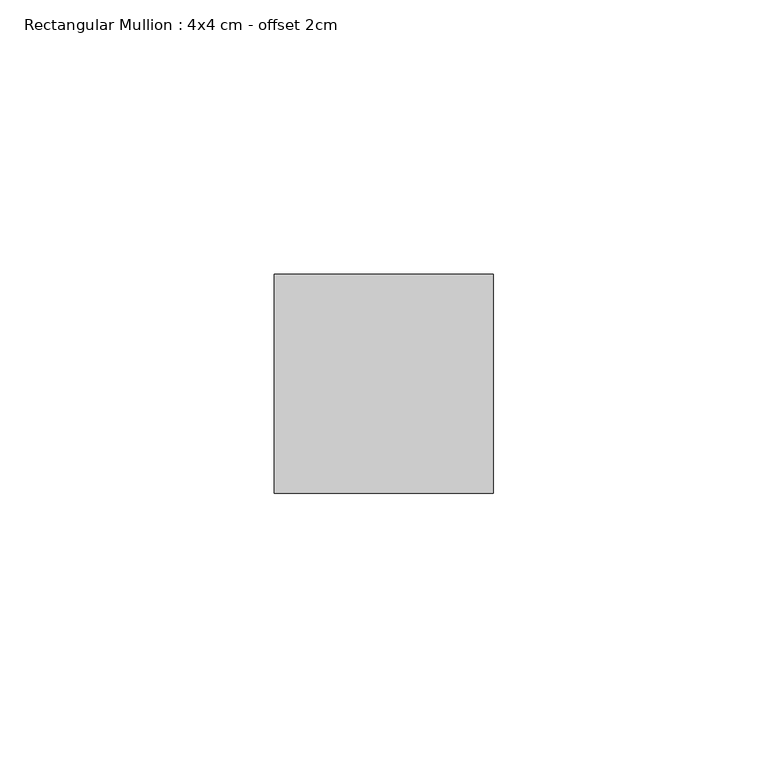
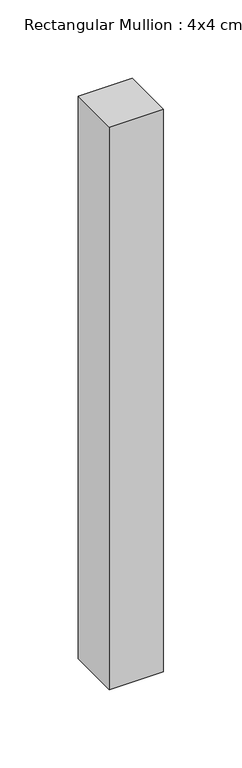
"""IFC4 building model written with IfcOpenShell, lengths in millimetres: member geometry, Rectangular Mullion : 4x4 cm - offset 2cm."""

import ifcopenshell
import ifcopenshell.guid

model = None  # the IFC model being written
_history = None  # IfcOwnerHistory: only IFC2X3 demands one
_inside = {}  # id of a spatial element -> (the spatial element, [elements in it])
_under = {}  # id of a project, library or spatial element -> (it, [spatial elements below it])
_declared = {}  # id of a project -> (the project, [libraries it declares])
_typed = {}  # id of a type object -> (the type object, [elements of that type])
_made_of = {}  # id of a material, layer set ... -> (it, [elements and type objects made of it])


def new_model(schema):
    """Start an empty IFC model of exactly this schema.

    Asked for "IFC4X3", IfcOpenShell would pick the latest addendum, in which some entities
    have other attributes; the version numbers below select the first issue.
    IFC2X3 requires an IfcOwnerHistory on every rooted entity: one is made here for all.
    """
    global model, _history
    if schema == "IFC4X3":
        model = ifcopenshell.file(schema_version=(4, 3, 0, 0))
    else:
        model = ifcopenshell.file(schema=schema)
    _inside.clear()
    _under.clear()
    _declared.clear()
    _typed.clear()
    _made_of.clear()
    _history = None
    if model.schema == "IFC2X3":
        org = make("IfcOrganization", Name="unknown")
        user = make(
            "IfcPersonAndOrganization",
            ThePerson=make("IfcPerson", FamilyName="unknown"),
            TheOrganization=org,
        )
        app = make(
            "IfcApplication",
            ApplicationDeveloper=org,
            Version="unknown",
            ApplicationFullName="unknown",
            ApplicationIdentifier="unknown",
        )
        _history = make(
            "IfcOwnerHistory",
            OwningUser=user,
            OwningApplication=app,
            ChangeAction="ADDED",
            CreationDate=0,
        )
    return model


def make(cls, **values):
    """One entity of the class cls with the attributes given. An attribute that is None is left unset."""
    return model.create_entity(
        cls, **{name: value for name, value in values.items() if value is not None}
    )


def rooted(cls, **values):
    """An entity with a GlobalId (a new one), such as an element, a storey or a relation."""
    return make(cls, GlobalId=ifcopenshell.guid.new(), OwnerHistory=_history, **values)


def si_unit(unit_type, name, prefix=None):
    """IfcSIUnit, for example si_unit("LENGTHUNIT", "METRE", prefix="MILLI")."""
    return make("IfcSIUnit", UnitType=unit_type, Prefix=prefix, Name=name)


def assignment(units):
    """IfcUnitAssignment: the units of a project."""
    return None if units is None else make("IfcUnitAssignment", Units=units)


def point(xyz):
    """IfcCartesianPoint."""
    return None if xyz is None else make("IfcCartesianPoint", Coordinates=xyz)


def direction(xyz):
    """IfcDirection."""
    return None if xyz is None else make("IfcDirection", DirectionRatios=xyz)


def frame(location, z_axis=None, x_axis=None):
    """IfcAxis2Placement3D, a coordinate frame: its origin and axes. An axis left out is left unset."""
    return make(
        "IfcAxis2Placement3D",
        Location=point(location),
        Axis=direction(z_axis),
        RefDirection=direction(x_axis),
    )


def origin():
    """The frame at (0, 0, 0) with its axes left unset."""
    return frame((0.0, 0.0, 0.0))


def place(relative_to, where):
    """IfcLocalPlacement: puts the frame where relative to a parent placement (None: the world)."""
    return make(
        "IfcLocalPlacement", PlacementRelTo=relative_to, RelativePlacement=where
    )


def context(
    kind, dimensions, precision=None, world=None, true_north=None, identifier=None
):
    """IfcGeometricRepresentationContext, for example the 3D "Model" context."""
    return make(
        "IfcGeometricRepresentationContext",
        ContextIdentifier=identifier,
        ContextType=kind,
        CoordinateSpaceDimension=dimensions,
        Precision=precision,
        WorldCoordinateSystem=world,
        TrueNorth=true_north,
    )


def project(units=None, contexts=None):
    """IfcProject with its units and contexts."""
    return rooted(
        "IfcProject",
        Name="project",
        RepresentationContexts=contexts,
        UnitsInContext=assignment(units),
    )


def spatial(cls, under=None, at=None, **own):
    """A site, building, storey or space (cls), placed at a placement, below another one or the project."""
    s = rooted(cls, ObjectPlacement=at, **own)
    if under is not None:
        _under.setdefault(under.id(), (under, []))[1].append(s)
    return s


def polyline(points):
    """IfcPolyline through the points."""
    return make("IfcPolyline", Points=[point(p) for p in points])


def outline(outer, holes=None, kind="AREA"):
    """IfcArbitraryClosedProfileDef: a profile drawn as a closed curve; with holes, ...WithVoids."""
    if holes is None:
        return make("IfcArbitraryClosedProfileDef", ProfileType=kind, OuterCurve=outer)
    return make(
        "IfcArbitraryProfileDefWithVoids",
        ProfileType=kind,
        OuterCurve=outer,
        InnerCurves=holes,
    )


def extrude(swept, where, along, depth):
    """IfcExtrudedAreaSolid: the profile swept, set in the frame where, extruded along a direction by depth."""
    return make(
        "IfcExtrudedAreaSolid",
        SweptArea=swept,
        Position=where,
        ExtrudedDirection=direction(along),
        Depth=depth,
    )


def shape(context_of_items, identifier, shape_type, items):
    """IfcShapeRepresentation: the items that make up one representation, for example the "Body"."""
    return make(
        "IfcShapeRepresentation",
        ContextOfItems=context_of_items,
        RepresentationIdentifier=identifier,
        RepresentationType=shape_type,
        Items=items,
    )


def source(mapping_origin, context_of_items, identifier, shape_type, items):
    """IfcRepresentationMap: a shape defined once, which mapped items show again and again."""
    return make(
        "IfcRepresentationMap",
        MappingOrigin=mapping_origin,
        MappedRepresentation=shape(context_of_items, identifier, shape_type, items),
    )


def transform(
    local_origin,
    x_axis=None,
    y_axis=None,
    z_axis=None,
    scale=None,
    scale2=None,
    scale3=None,
    uniform=True,
):
    """IfcCartesianTransformationOperator3D, or its non-uniform kind. x_axis, y_axis, z_axis: its Axis1, 2, 3."""
    if uniform:
        return make(
            "IfcCartesianTransformationOperator3D",
            Axis1=direction(x_axis),
            Axis2=direction(y_axis),
            LocalOrigin=point(local_origin),
            Scale=scale,
            Axis3=direction(z_axis),
        )
    return make(
        "IfcCartesianTransformationOperator3DnonUniform",
        Axis1=direction(x_axis),
        Axis2=direction(y_axis),
        LocalOrigin=point(local_origin),
        Scale=scale,
        Axis3=direction(z_axis),
        Scale2=scale2,
        Scale3=scale3,
    )


def mapped(mapping_source, mapping_target):
    """IfcMappedItem: shows the shape of a source again, moved by a transform."""
    return make(
        "IfcMappedItem", MappingSource=mapping_source, MappingTarget=mapping_target
    )


def made_of(thing, what):
    """Note that an element or type object is made of a material, layer set ...; save() writes the relation."""
    if what is not None:
        _made_of.setdefault(what.id(), (what, []))[1].append(thing)
    return thing


def element(
    cls,
    number,
    at=None,
    inside=None,
    cuts=None,
    type_object=None,
    material=None,
    context=None,
    identifier="Body",
    shape_type=None,
    held_by="IfcProductDefinitionShape",
    body=None,
    shapes=None,
    **own,
):
    """One element of the class cls, such as IfcWall. Its Tag is "e" and its number.

    at: its placement. inside: the storey or other place that contains it. cuts: it is an
    opening in that element (IfcRelVoidsElement). A single representation is given by context,
    identifier, shape_type and body (its items); several are given by shapes. held_by: the class
    of the entity that holds the representations. save() writes the other relations.
    """
    e = rooted(cls, Tag="e%d" % number, ObjectPlacement=at, **own)
    if body is not None:
        shapes = [shape(context, identifier, shape_type, body)]
    if shapes is not None:
        e.Representation = make(held_by, Representations=shapes)
    if inside is not None:
        _inside.setdefault(inside.id(), (inside, []))[1].append(e)
    if cuts is not None:
        rooted(
            "IfcRelVoidsElement", RelatingBuildingElement=cuts, RelatedOpeningElement=e
        )
    if type_object is not None:
        _typed.setdefault(type_object.id(), (type_object, []))[1].append(e)
    return made_of(e, material)


def aggregate(whole, parts):
    """IfcRelAggregates: a whole, such as a stair, and the parts it consists of."""
    return rooted("IfcRelAggregates", RelatingObject=whole, RelatedObjects=parts)


def save(model, path):
    """Write the relations noted so far, then the file.

    IfcRelAggregates (storeys below a building ...), IfcRelContainedInSpatialStructure (elements
    in a storey), IfcRelDefinesByType, IfcRelAssociatesMaterial and IfcRelDeclares: one each for
    every whole, place, type object, material and project.
    """
    for whole, parts in _under.values():
        aggregate(whole, parts)
    for where, things in _inside.values():
        rooted(
            "IfcRelContainedInSpatialStructure",
            RelatedElements=things,
            RelatingStructure=where,
        )
    for kind, things in _typed.values():
        rooted("IfcRelDefinesByType", RelatedObjects=things, RelatingType=kind)
    for what, things in _made_of.values():
        rooted("IfcRelAssociatesMaterial", RelatedObjects=things, RelatingMaterial=what)
    for by, libraries in _declared.values():
        rooted("IfcRelDeclares", RelatingContext=by, RelatedDefinitions=libraries)
    model.write(path)


def rectangular_mullion_4x4_cm_offset_2cm_71549611(model_context):
    return source(origin(), model_context, "Body", "SweptSolid", [
        extrude(outline(polyline([(0.0, 40.0), (0.0, 0.0), (-40.0, 0.0), (-40.0, 40.0), (0.0, 40.0)])), frame((0.0, 0.0, -439.9999997), z_axis=(0.0, 0.0, 1.0), x_axis=(1.0, 0.0, 0.0)), (0.0, 0.0, 1.0), 439.9999997),
    ])


if __name__ == "__main__":
    model = new_model("IFC4")
    model_context = context("Model", 3, world=origin())
    ifc_project = project(units=[si_unit("LENGTHUNIT", "METRE", prefix="MILLI")], contexts=[model_context])
    site = spatial("IfcSite", under=ifc_project)
    building = spatial("IfcBuilding", under=site)
    placement = place(None, origin())
    rectangular_mullion_4x4_cm_offset_2cm_shape = rectangular_mullion_4x4_cm_offset_2cm_71549611(model_context)
    element("IfcMember", 1, ObjectType="Rectangular Mullion : 4x4 cm - offset 2cm", at=placement, inside=building, context=model_context, shape_type="MappedRepresentation", body=[
        mapped(rectangular_mullion_4x4_cm_offset_2cm_shape, transform((0.0, 0.0, 0.0), x_axis=(1.0, 0.0, 0.0), y_axis=(0.0, 1.0, 0.0), z_axis=(0.0, 0.0, 1.0))),
    ])
    save(model, "model.ifc")
